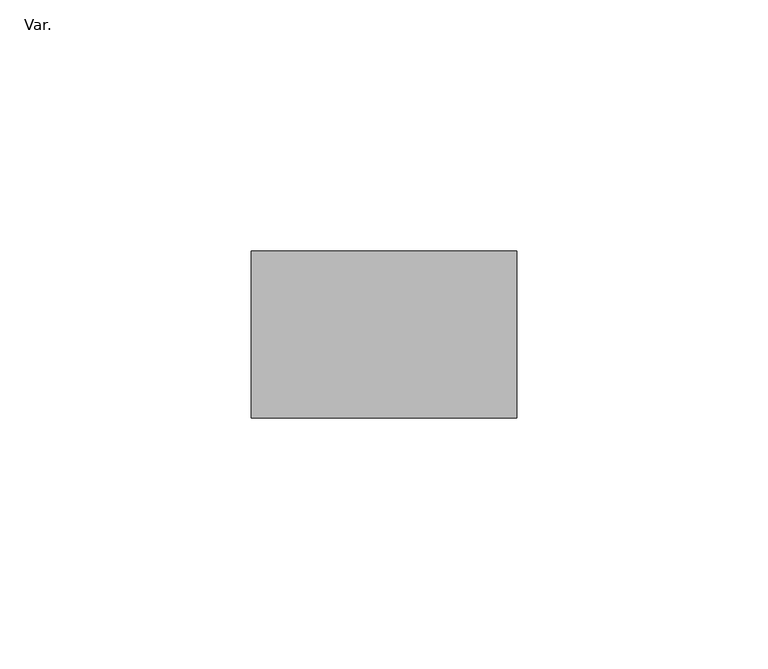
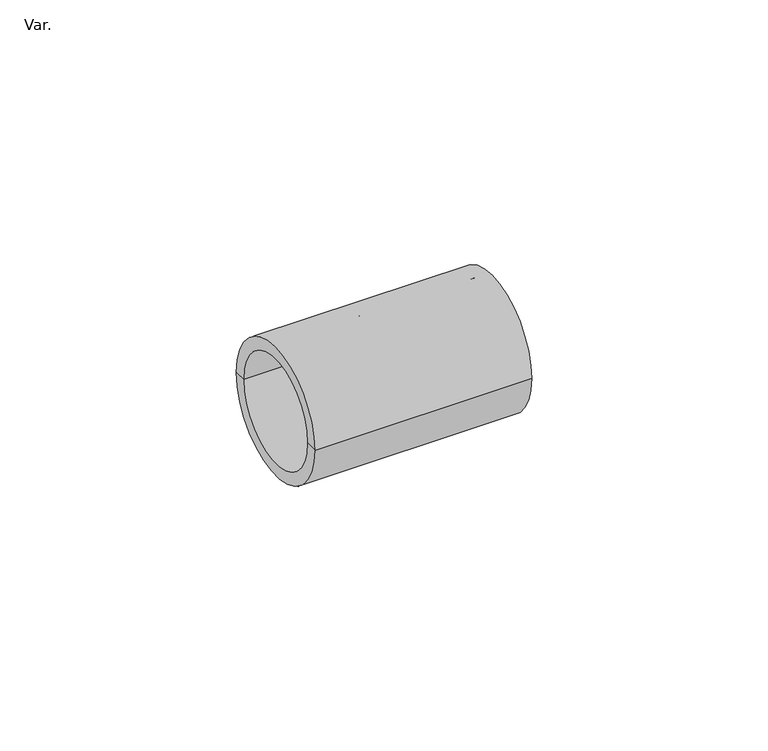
"""IFC4 building model written with IfcOpenShell, lengths in millimetres: pipe fitting geometry, AmancoWavin_ConexõesdeTubos_CPVCBlazeMasterLuva : Var.."""

import ifcopenshell
import ifcopenshell.guid

model = None  # the IFC model being written
_history = None  # IfcOwnerHistory: only IFC2X3 demands one
_inside = {}  # id of a spatial element -> (the spatial element, [elements in it])
_under = {}  # id of a project, library or spatial element -> (it, [spatial elements below it])
_declared = {}  # id of a project -> (the project, [libraries it declares])
_typed = {}  # id of a type object -> (the type object, [elements of that type])
_made_of = {}  # id of a material, layer set ... -> (it, [elements and type objects made of it])


def new_model(schema):
    """Start an empty IFC model of exactly this schema.

    Asked for "IFC4X3", IfcOpenShell would pick the latest addendum, in which some entities
    have other attributes; the version numbers below select the first issue.
    IFC2X3 requires an IfcOwnerHistory on every rooted entity: one is made here for all.
    """
    global model, _history
    if schema == "IFC4X3":
        model = ifcopenshell.file(schema_version=(4, 3, 0, 0))
    else:
        model = ifcopenshell.file(schema=schema)
    _inside.clear()
    _under.clear()
    _declared.clear()
    _typed.clear()
    _made_of.clear()
    _history = None
    if model.schema == "IFC2X3":
        org = make("IfcOrganization", Name="unknown")
        user = make(
            "IfcPersonAndOrganization",
            ThePerson=make("IfcPerson", FamilyName="unknown"),
            TheOrganization=org,
        )
        app = make(
            "IfcApplication",
            ApplicationDeveloper=org,
            Version="unknown",
            ApplicationFullName="unknown",
            ApplicationIdentifier="unknown",
        )
        _history = make(
            "IfcOwnerHistory",
            OwningUser=user,
            OwningApplication=app,
            ChangeAction="ADDED",
            CreationDate=0,
        )
    return model


def make(cls, **values):
    """One entity of the class cls with the attributes given. An attribute that is None is left unset."""
    return model.create_entity(
        cls, **{name: value for name, value in values.items() if value is not None}
    )


def rooted(cls, **values):
    """An entity with a GlobalId (a new one), such as an element, a storey or a relation."""
    return make(cls, GlobalId=ifcopenshell.guid.new(), OwnerHistory=_history, **values)


def si_unit(unit_type, name, prefix=None):
    """IfcSIUnit, for example si_unit("LENGTHUNIT", "METRE", prefix="MILLI")."""
    return make("IfcSIUnit", UnitType=unit_type, Prefix=prefix, Name=name)


def assignment(units):
    """IfcUnitAssignment: the units of a project."""
    return None if units is None else make("IfcUnitAssignment", Units=units)


def point(xyz):
    """IfcCartesianPoint."""
    return None if xyz is None else make("IfcCartesianPoint", Coordinates=xyz)


def direction(xyz):
    """IfcDirection."""
    return None if xyz is None else make("IfcDirection", DirectionRatios=xyz)


def frame(location, z_axis=None, x_axis=None):
    """IfcAxis2Placement3D, a coordinate frame: its origin and axes. An axis left out is left unset."""
    return make(
        "IfcAxis2Placement3D",
        Location=point(location),
        Axis=direction(z_axis),
        RefDirection=direction(x_axis),
    )


def origin():
    """The frame at (0, 0, 0) with its axes left unset."""
    return frame((0.0, 0.0, 0.0))


def place(relative_to, where):
    """IfcLocalPlacement: puts the frame where relative to a parent placement (None: the world)."""
    return make(
        "IfcLocalPlacement", PlacementRelTo=relative_to, RelativePlacement=where
    )


def context(
    kind, dimensions, precision=None, world=None, true_north=None, identifier=None
):
    """IfcGeometricRepresentationContext, for example the 3D "Model" context."""
    return make(
        "IfcGeometricRepresentationContext",
        ContextIdentifier=identifier,
        ContextType=kind,
        CoordinateSpaceDimension=dimensions,
        Precision=precision,
        WorldCoordinateSystem=world,
        TrueNorth=true_north,
    )


def project(units=None, contexts=None):
    """IfcProject with its units and contexts."""
    return rooted(
        "IfcProject",
        Name="project",
        RepresentationContexts=contexts,
        UnitsInContext=assignment(units),
    )


def spatial(cls, under=None, at=None, **own):
    """A site, building, storey or space (cls), placed at a placement, below another one or the project."""
    s = rooted(cls, ObjectPlacement=at, **own)
    if under is not None:
        _under.setdefault(under.id(), (under, []))[1].append(s)
    return s


def polyline(points):
    """IfcPolyline through the points."""
    return make("IfcPolyline", Points=[point(p) for p in points])


def circle_curve(where, radius):
    """IfcCircle in the frame where."""
    return make("IfcCircle", Position=where, Radius=radius)


def shape(context_of_items, identifier, shape_type, items):
    """IfcShapeRepresentation: the items that make up one representation, for example the "Body"."""
    return make(
        "IfcShapeRepresentation",
        ContextOfItems=context_of_items,
        RepresentationIdentifier=identifier,
        RepresentationType=shape_type,
        Items=items,
    )


def source(mapping_origin, context_of_items, identifier, shape_type, items):
    """IfcRepresentationMap: a shape defined once, which mapped items show again and again."""
    return make(
        "IfcRepresentationMap",
        MappingOrigin=mapping_origin,
        MappedRepresentation=shape(context_of_items, identifier, shape_type, items),
    )


def transform(
    local_origin,
    x_axis=None,
    y_axis=None,
    z_axis=None,
    scale=None,
    scale2=None,
    scale3=None,
    uniform=True,
):
    """IfcCartesianTransformationOperator3D, or its non-uniform kind. x_axis, y_axis, z_axis: its Axis1, 2, 3."""
    if uniform:
        return make(
            "IfcCartesianTransformationOperator3D",
            Axis1=direction(x_axis),
            Axis2=direction(y_axis),
            LocalOrigin=point(local_origin),
            Scale=scale,
            Axis3=direction(z_axis),
        )
    return make(
        "IfcCartesianTransformationOperator3DnonUniform",
        Axis1=direction(x_axis),
        Axis2=direction(y_axis),
        LocalOrigin=point(local_origin),
        Scale=scale,
        Axis3=direction(z_axis),
        Scale2=scale2,
        Scale3=scale3,
    )


def mapped(mapping_source, mapping_target):
    """IfcMappedItem: shows the shape of a source again, moved by a transform."""
    return make(
        "IfcMappedItem", MappingSource=mapping_source, MappingTarget=mapping_target
    )


def made_of(thing, what):
    """Note that an element or type object is made of a material, layer set ...; save() writes the relation."""
    if what is not None:
        _made_of.setdefault(what.id(), (what, []))[1].append(thing)
    return thing


def element(
    cls,
    number,
    at=None,
    inside=None,
    cuts=None,
    type_object=None,
    material=None,
    context=None,
    identifier="Body",
    shape_type=None,
    held_by="IfcProductDefinitionShape",
    body=None,
    shapes=None,
    **own,
):
    """One element of the class cls, such as IfcWall. Its Tag is "e" and its number.

    at: its placement. inside: the storey or other place that contains it. cuts: it is an
    opening in that element (IfcRelVoidsElement). A single representation is given by context,
    identifier, shape_type and body (its items); several are given by shapes. held_by: the class
    of the entity that holds the representations. save() writes the other relations.
    """
    e = rooted(cls, Tag="e%d" % number, ObjectPlacement=at, **own)
    if body is not None:
        shapes = [shape(context, identifier, shape_type, body)]
    if shapes is not None:
        e.Representation = make(held_by, Representations=shapes)
    if inside is not None:
        _inside.setdefault(inside.id(), (inside, []))[1].append(e)
    if cuts is not None:
        rooted(
            "IfcRelVoidsElement", RelatingBuildingElement=cuts, RelatedOpeningElement=e
        )
    if type_object is not None:
        _typed.setdefault(type_object.id(), (type_object, []))[1].append(e)
    return made_of(e, material)


def aggregate(whole, parts):
    """IfcRelAggregates: a whole, such as a stair, and the parts it consists of."""
    return rooted("IfcRelAggregates", RelatingObject=whole, RelatedObjects=parts)


def save(model, path):
    """Write the relations noted so far, then the file.

    IfcRelAggregates (storeys below a building ...), IfcRelContainedInSpatialStructure (elements
    in a storey), IfcRelDefinesByType, IfcRelAssociatesMaterial and IfcRelDeclares: one each for
    every whole, place, type object, material and project.
    """
    for whole, parts in _under.values():
        aggregate(whole, parts)
    for where, things in _inside.values():
        rooted(
            "IfcRelContainedInSpatialStructure",
            RelatedElements=things,
            RelatingStructure=where,
        )
    for kind, things in _typed.values():
        rooted("IfcRelDefinesByType", RelatedObjects=things, RelatingType=kind)
    for what, things in _made_of.values():
        rooted("IfcRelAssociatesMaterial", RelatedObjects=things, RelatingMaterial=what)
    for by, libraries in _declared.values():
        rooted("IfcRelDeclares", RelatingContext=by, RelatedDefinitions=libraries)
    model.write(path)


def plane_surface(at):
    """IfcPlane: the flat surface through the origin of the frame at, square to its z axis."""
    return make("IfcPlane", Position=at)


def cylinder_surface(at, radius):
    """IfcCylindricalSurface: all points at the distance radius from the z axis of the frame at."""
    return make("IfcCylindricalSurface", Position=at, Radius=radius)


def revolved_surface(curve, axis_point, axis_direction):
    """IfcSurfaceOfRevolution: the curve turned about the line through axis_point along axis_direction."""
    return make(
        "IfcSurfaceOfRevolution",
        SweptCurve=make("IfcArbitraryOpenProfileDef", ProfileType="CURVE", Curve=curve),
        AxisPosition=make("IfcAxis1Placement", Location=point(axis_point), Axis=direction(axis_direction)),
    )


def advanced_brep(points, edges, surfaces, faces):
    """IfcAdvancedBrep: a solid bounded by faces that lie on surfaces and meet in shared edges.

    An edge is (start, end): straight between two places in points (the first is 0);
    or (start, end, curve); or (start, end, curve, False) where it runs against its curve.
    A face is (place in surfaces, loops), or (place, loops, False) where it looks against
    its surface's normal. A loop lists edges by number (the first is 1), with a minus sign
    where the edge is run from its end to its start. The first loop is the outer one.
    """
    corners = [point(p) for p in points]
    vertices = [make("IfcVertexPoint", VertexGeometry=c) for c in corners]
    made = []
    for start, end, *more in edges:
        made.append(
            make(
                "IfcEdgeCurve",
                EdgeStart=vertices[start],
                EdgeEnd=vertices[end],
                EdgeGeometry=more[0] if more else make("IfcPolyline", Points=[corners[start], corners[end]]),
                SameSense=more[1] if len(more) > 1 else True,
            )
        )
    hull = []
    for where, loops, *sense in faces:
        bounds = []
        for j, loop in enumerate(loops):
            ring = [make("IfcOrientedEdge", EdgeElement=made[abs(k) - 1], Orientation=k > 0) for k in loop]
            bounds.append(
                make(
                    "IfcFaceOuterBound" if j == 0 else "IfcFaceBound",
                    Bound=make("IfcEdgeLoop", EdgeList=ring),
                    Orientation=True,
                )
            )
        hull.append(make("IfcAdvancedFace", Bounds=bounds, FaceSurface=surfaces[where], SameSense=sense[0] if sense else True))
    return make("IfcAdvancedBrep", Outer=make("IfcClosedShell", CfsFaces=hull))


def var_06a8be00(model_context):
    return source(origin(), model_context, "Body", "AdvancedBrep", [
        advanced_brep(
        [(-1.525, 0.0, 0.0), (-1.525, 13.55, 0.0), (-1.525, -13.55, 0.0), (1.525, -13.55, 0.0), (1.525, 13.55, 0.0), (1.525, 0.0, 0.0), (26.425, -13.55, 0.0), (26.425, 13.55, 0.0), (26.425, -16.6, 0.0), (26.425, 16.6, 0.0), (-26.425, -16.6, 0.0), (-26.425, 16.6, 0.0), (-26.425, -13.55, 0.0), (-26.425, 13.55, 0.0)],
        [
            (0, 1),
            (1, 2, circle_curve(frame((-1.525, 0.0, 0.0), z_axis=(-1.0, 0.0, 0.0), x_axis=(0.0, 1.0, 0.0)), 13.55)),
            (2, 0),
            (2, 1, circle_curve(frame((-1.525, 0.0, 0.0), z_axis=(-1.0, 0.0, 0.0), x_axis=(0.0, 1.0, 0.0)), 13.55)),
            (3, 4, circle_curve(frame((1.525, 0.0, 0.0), z_axis=(1.0, 0.0, 0.0), x_axis=(0.0, 1.0, 0.0)), 13.55)),
            (4, 5),
            (5, 3),
            (4, 3, circle_curve(frame((1.525, 0.0, 0.0), z_axis=(1.0, 0.0, 0.0), x_axis=(0.0, 1.0, 0.0)), 13.55)),
            (6, 7, circle_curve(frame((26.425, 0.0, 0.0), z_axis=(1.0, 0.0, 0.0), x_axis=(0.0, 1.0, 0.0)), 13.55)),
            (7, 4),
            (3, 6),
            (7, 6, circle_curve(frame((26.425, 0.0, 0.0), z_axis=(1.0, 0.0, 0.0), x_axis=(0.0, 1.0, 0.0)), 13.55)),
            (8, 9, circle_curve(frame((26.425, 0.0, 0.0), z_axis=(1.0, 0.0, 0.0), x_axis=(0.0, 1.0, 0.0)), 16.6)),
            (9, 7),
            (6, 8),
            (9, 8, circle_curve(frame((26.425, 0.0, 0.0), z_axis=(1.0, 0.0, 0.0), x_axis=(0.0, 1.0, 0.0)), 16.6)),
            (10, 11, circle_curve(frame((-26.425, 0.0, 0.0), z_axis=(1.0, 0.0, 0.0), x_axis=(0.0, 1.0, 0.0)), 16.6)),
            (11, 9),
            (8, 10),
            (11, 10, circle_curve(frame((-26.425, 0.0, 0.0), z_axis=(1.0, 0.0, 0.0), x_axis=(0.0, 1.0, 0.0)), 16.6)),
            (12, 13, circle_curve(frame((-26.425, 0.0, 0.0), z_axis=(1.0, 0.0, 0.0), x_axis=(0.0, 1.0, 0.0)), 13.55)),
            (13, 11),
            (10, 12),
            (13, 12, circle_curve(frame((-26.425, 0.0, 0.0), z_axis=(1.0, 0.0, 0.0), x_axis=(0.0, 1.0, 0.0)), 13.55)),
            (1, 13),
            (12, 2),
        ],
        [
            plane_surface(frame((-1.525, 0.0, 0.0), z_axis=(-1.0, 0.0, 0.0), x_axis=(0.0, 1.0, 0.0))),
            plane_surface(frame((1.525, 0.0, 0.0), z_axis=(1.0, 0.0, 0.0), x_axis=(0.0, 1.0, 0.0))),
            revolved_surface(polyline([(1.525000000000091, 13.55, 0.0), (26.424999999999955, 13.55, 0.0)]), (1997.49, 0.0, 0.0), (-1.0, 0.0, 0.0)),
            plane_surface(frame((26.425, 0.0, 0.0), z_axis=(1.0, 0.0, 0.0), x_axis=(0.0, 1.0, 0.0))),
            cylinder_surface(frame((1997.49, 0.0, 0.0), z_axis=(-1.0, 0.0, 0.0), x_axis=(0.0, 1.0, 0.0)), 16.6),
            plane_surface(frame((-26.425, 0.0, 0.0), z_axis=(-1.0, 0.0, 0.0), x_axis=(0.0, 1.0, 0.0))),
            revolved_surface(polyline([(-26.424999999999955, 13.55, 0.0), (-1.525000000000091, 13.55, 0.0)]), (1997.49, 0.0, 0.0), (-1.0, 0.0, 0.0)),
        ],
        [
            (0, [[1, 2, 3]]),
            (0, [[-3, 4, -1]]),
            (1, [[5, 6, 7]]),
            (1, [[8, -7, -6]]),
            (2, [[9, 10, -5, 11]]),
            (2, [[12, -11, -8, -10]]),
            (3, [[13, 14, -9, 15]]),
            (3, [[16, -15, -12, -14]]),
            (4, [[17, 18, -13, 19]]),
            (4, [[20, -19, -16, -18]]),
            (5, [[21, 22, -17, 23]]),
            (5, [[24, -23, -20, -22]]),
            (6, [[-2, 25, -21, 26]]),
            (6, [[-4, -26, -24, -25]]),
        ],
    ),
    ])


if __name__ == "__main__":
    model = new_model("IFC4")
    model_context = context("Model", 3, world=origin())
    ifc_project = project(units=[si_unit("LENGTHUNIT", "METRE", prefix="MILLI")], contexts=[model_context])
    site = spatial("IfcSite", under=ifc_project)
    building = spatial("IfcBuilding", under=site)
    placement = place(None, origin())
    var_shape = var_06a8be00(model_context)
    element("IfcPipeFitting", 1, ObjectType="AmancoWavin_ConexõesdeTubos_CPVCBlazeMasterLuva : Var.", at=placement, inside=building, context=model_context, shape_type="MappedRepresentation", body=[
        mapped(var_shape, transform((0.0, 0.0, 0.0), x_axis=(1.0, 0.0, 0.0), y_axis=(0.0, 1.0, 0.0), z_axis=(0.0, 0.0, 1.0))),
    ])
    save(model, "model.ifc")
